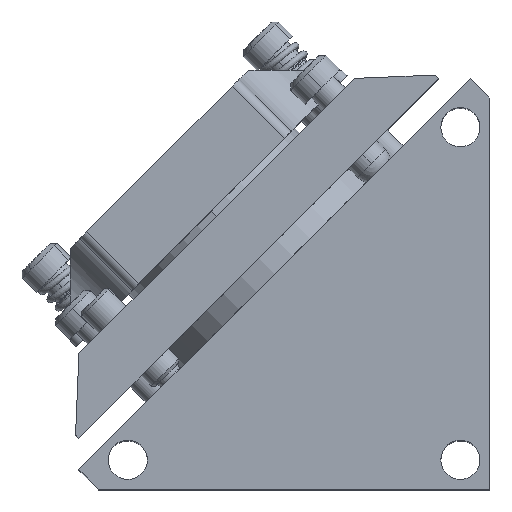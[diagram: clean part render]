
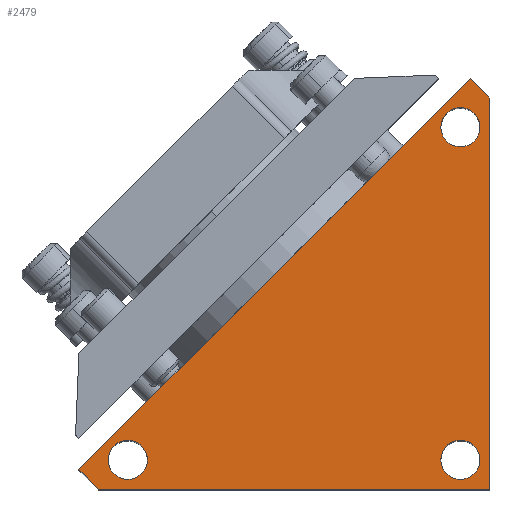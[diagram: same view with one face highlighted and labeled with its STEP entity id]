
A CAD part, top view. The second image highlights one B-rep face of the part: STEP entity #2479.
In plain terms, the highlighted planar face has unit normal (0, 0, 1).
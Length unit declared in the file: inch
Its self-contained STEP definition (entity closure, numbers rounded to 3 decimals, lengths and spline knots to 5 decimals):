
#99 = DIRECTION ( 'NONE',  ( 1., 0., 0. ) ) ;
#126 = VERTEX_POINT ( 'NONE', #1744 ) ;
#214 = CARTESIAN_POINT ( 'NONE',  ( 0.937, 1.063, 1.25 ) ) ;
#350 = CARTESIAN_POINT ( 'NONE',  ( -1.24984, -1.25, 1.25 ) ) ;
#599 = CARTESIAN_POINT ( 'NONE',  ( 1.062, 1.063, 1.25 ) ) ;
#823 = FACE_BOUND ( 'NONE', #15876, .T. ) ;
#960 = VERTEX_POINT ( 'NONE', #3026 ) ;
#992 = CIRCLE ( 'NONE', #25170, 0.125 ) ;
#1070 = EDGE_CURVE ( 'NONE', #960, #12417, #5719, .T. ) ;
#1321 = CIRCLE ( 'NONE', #11385, 0.125 ) ;
#1413 = EDGE_CURVE ( 'NONE', #22566, #16525, #10291, .T. ) ;
#1719 = EDGE_CURVE ( 'NONE', #16593, #3521, #5075, .T. ) ;
#1744 = CARTESIAN_POINT ( 'NONE',  ( 1.187, 1.063, 1.25 ) ) ;
#1753 = ORIENTED_EDGE ( 'NONE', *, *, #7832, .T. ) ;
#2479 = ADVANCED_FACE ( 'NONE', ( #5379, #15432, #823, #9351 ), #6148, .F. ) ;
#2521 = CARTESIAN_POINT ( 'NONE',  ( 1.25, -1.25, 1.25 ) ) ;
#2572 = CARTESIAN_POINT ( 'NONE',  ( 1.062, -1.062, 1.25 ) ) ;
#2690 = ORIENTED_EDGE ( 'NONE', *, *, #9027, .F. ) ;
#3026 = CARTESIAN_POINT ( 'NONE',  ( 1.12484, 1.375, 1.25 ) ) ;
#3185 = CARTESIAN_POINT ( 'NONE',  ( 1.12484, 1.375, 1.25 ) ) ;
#3297 = CARTESIAN_POINT ( 'NONE',  ( -1.24984, -1.25, 1.25 ) ) ;
#3521 = VERTEX_POINT ( 'NONE', #4436 ) ;
#4030 = CIRCLE ( 'NONE', #10267, 0.125 ) ;
#4146 = CARTESIAN_POINT ( 'NONE',  ( 1.062, 1.063, 1.25 ) ) ;
#4436 = CARTESIAN_POINT ( 'NONE',  ( 1.187, -1.062, 1.25 ) ) ;
#4649 = DIRECTION ( 'NONE',  ( 0., 0., 1. ) ) ;
#5075 = CIRCLE ( 'NONE', #11022, 0.125 ) ;
#5268 = CIRCLE ( 'NONE', #7813, 0.125 ) ;
#5309 = AXIS2_PLACEMENT_3D ( 'NONE', #12111, #19614, #23580 ) ;
#5379 = FACE_BOUND ( 'NONE', #23743, .T. ) ;
#5719 = LINE ( 'NONE', #3185, #10594 ) ;
#6148 = PLANE ( 'NONE',  #5309 ) ;
#6502 = DIRECTION ( 'NONE',  ( 0., 0., 1. ) ) ;
#6531 = DIRECTION ( 'NONE',  ( 0., 0., 1. ) ) ;
#7378 = EDGE_LOOP ( 'NONE', ( #24109, #24682 ) ) ;
#7813 = AXIS2_PLACEMENT_3D ( 'NONE', #8327, #6531, #20176 ) ;
#7832 = EDGE_CURVE ( 'NONE', #20039, #17924, #15176, .T. ) ;
#8327 = CARTESIAN_POINT ( 'NONE',  ( -1.063, -1.062, 1.25 ) ) ;
#8726 = EDGE_CURVE ( 'NONE', #126, #16026, #1321, .T. ) ;
#8946 = DIRECTION ( 'NONE',  ( 0.707, -0.707, 0. ) ) ;
#9027 = EDGE_CURVE ( 'NONE', #16525, #22566, #5268, .T. ) ;
#9351 = FACE_OUTER_BOUND ( 'NONE', #9884, .T. ) ;
#9884 = EDGE_LOOP ( 'NONE', ( #15180, #22161, #24737, #11202, #1753 ) ) ;
#10267 = AXIS2_PLACEMENT_3D ( 'NONE', #2572, #20216, #22268 ) ;
#10291 = CIRCLE ( 'NONE', #17895, 0.125 ) ;
#10594 = VECTOR ( 'NONE', #22742, 39.37008 ) ;
#11015 = LINE ( 'NONE', #20817, #18643 ) ;
#11022 = AXIS2_PLACEMENT_3D ( 'NONE', #24111, #6502, #22194 ) ;
#11202 = ORIENTED_EDGE ( 'NONE', *, *, #22435, .T. ) ;
#11246 = CARTESIAN_POINT ( 'NONE',  ( -0.938, -1.062, 1.25 ) ) ;
#11385 = AXIS2_PLACEMENT_3D ( 'NONE', #4146, #23364, #99 ) ;
#12111 = CARTESIAN_POINT ( 'NONE',  ( 1.25, -1.25, 1.25 ) ) ;
#12131 = DIRECTION ( 'NONE',  ( 0., 0., 1. ) ) ;
#12417 = VERTEX_POINT ( 'NONE', #24422 ) ;
#12746 = CARTESIAN_POINT ( 'NONE',  ( 1.25, 1.24984, 1.25 ) ) ;
#14697 = CARTESIAN_POINT ( 'NONE',  ( 1.25, -1.25, 1.25 ) ) ;
#15176 = LINE ( 'NONE', #3297, #16920 ) ;
#15180 = ORIENTED_EDGE ( 'NONE', *, *, #20812, .T. ) ;
#15432 = FACE_BOUND ( 'NONE', #7378, .T. ) ;
#15876 = EDGE_LOOP ( 'NONE', ( #24138, #17773 ) ) ;
#16026 = VERTEX_POINT ( 'NONE', #214 ) ;
#16525 = VERTEX_POINT ( 'NONE', #25073 ) ;
#16593 = VERTEX_POINT ( 'NONE', #21740 ) ;
#16920 = VECTOR ( 'NONE', #24765, 39.37008 ) ;
#17198 = CARTESIAN_POINT ( 'NONE',  ( 1.25, 1.24984, 1.25 ) ) ;
#17773 = ORIENTED_EDGE ( 'NONE', *, *, #8726, .F. ) ;
#17895 = AXIS2_PLACEMENT_3D ( 'NONE', #17930, #12131, #23676 ) ;
#17924 = VERTEX_POINT ( 'NONE', #2521 ) ;
#17930 = CARTESIAN_POINT ( 'NONE',  ( -1.063, -1.062, 1.25 ) ) ;
#18643 = VECTOR ( 'NONE', #8946, 39.37008 ) ;
#19614 = DIRECTION ( 'NONE',  ( 0., 0., -1. ) ) ;
#19957 = VERTEX_POINT ( 'NONE', #17198 ) ;
#20039 = VERTEX_POINT ( 'NONE', #350 ) ;
#20095 = DIRECTION ( 'NONE',  ( 1., 0., 0. ) ) ;
#20176 = DIRECTION ( 'NONE',  ( 1., 0., 0. ) ) ;
#20204 = VECTOR ( 'NONE', #20416, 39.37008 ) ;
#20216 = DIRECTION ( 'NONE',  ( 0., 0., 1. ) ) ;
#20333 = EDGE_CURVE ( 'NONE', #16026, #126, #992, .T. ) ;
#20416 = DIRECTION ( 'NONE',  ( 0., 1., 0. ) ) ;
#20812 = EDGE_CURVE ( 'NONE', #17924, #19957, #24208, .T. ) ;
#20817 = CARTESIAN_POINT ( 'NONE',  ( -1.375, -1.12484, 1.25 ) ) ;
#20907 = EDGE_CURVE ( 'NONE', #3521, #16593, #4030, .T. ) ;
#21092 = VECTOR ( 'NONE', #24493, 39.37008 ) ;
#21740 = CARTESIAN_POINT ( 'NONE',  ( 0.937, -1.062, 1.25 ) ) ;
#22161 = ORIENTED_EDGE ( 'NONE', *, *, #23313, .T. ) ;
#22194 = DIRECTION ( 'NONE',  ( 1., 0., 0. ) ) ;
#22268 = DIRECTION ( 'NONE',  ( 1., 0., 0. ) ) ;
#22435 = EDGE_CURVE ( 'NONE', #12417, #20039, #11015, .T. ) ;
#22566 = VERTEX_POINT ( 'NONE', #11246 ) ;
#22576 = ORIENTED_EDGE ( 'NONE', *, *, #1413, .F. ) ;
#22742 = DIRECTION ( 'NONE',  ( -0.707, -0.707, 0. ) ) ;
#23234 = LINE ( 'NONE', #12746, #21092 ) ;
#23313 = EDGE_CURVE ( 'NONE', #19957, #960, #23234, .T. ) ;
#23364 = DIRECTION ( 'NONE',  ( 0., 0., 1. ) ) ;
#23580 = DIRECTION ( 'NONE',  ( -1., 0., 0. ) ) ;
#23676 = DIRECTION ( 'NONE',  ( 1., 0., 0. ) ) ;
#23743 = EDGE_LOOP ( 'NONE', ( #2690, #22576 ) ) ;
#24109 = ORIENTED_EDGE ( 'NONE', *, *, #1719, .F. ) ;
#24111 = CARTESIAN_POINT ( 'NONE',  ( 1.062, -1.062, 1.25 ) ) ;
#24138 = ORIENTED_EDGE ( 'NONE', *, *, #20333, .F. ) ;
#24208 = LINE ( 'NONE', #14697, #20204 ) ;
#24422 = CARTESIAN_POINT ( 'NONE',  ( -1.375, -1.12484, 1.25 ) ) ;
#24493 = DIRECTION ( 'NONE',  ( -0.707, 0.707, 0. ) ) ;
#24682 = ORIENTED_EDGE ( 'NONE', *, *, #20907, .F. ) ;
#24737 = ORIENTED_EDGE ( 'NONE', *, *, #1070, .T. ) ;
#24765 = DIRECTION ( 'NONE',  ( 1., 0., 0. ) ) ;
#25073 = CARTESIAN_POINT ( 'NONE',  ( -1.188, -1.062, 1.25 ) ) ;
#25170 = AXIS2_PLACEMENT_3D ( 'NONE', #599, #4649, #20095 ) ;
